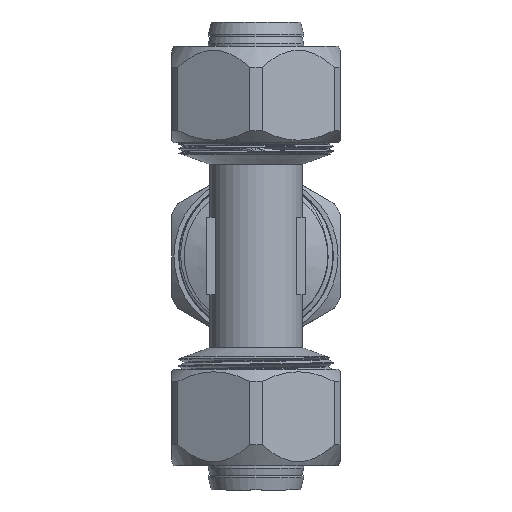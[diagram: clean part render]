
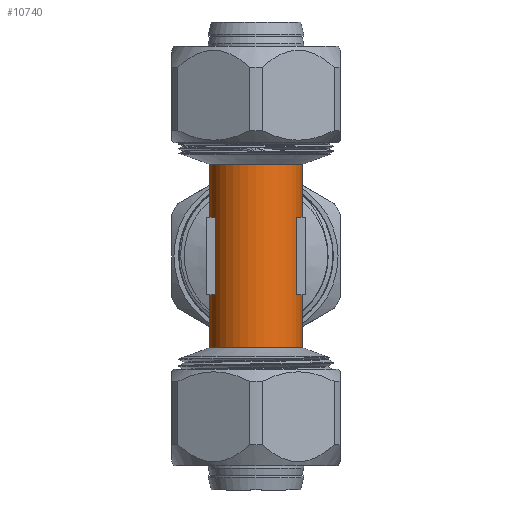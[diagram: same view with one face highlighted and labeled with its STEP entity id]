
A CAD part, front view. The second image highlights one B-rep face of the part: STEP entity #10740.
In plain terms, the highlighted cylindrical face has radius 9.65 mm (diameter 19.3 mm), a full revolution.
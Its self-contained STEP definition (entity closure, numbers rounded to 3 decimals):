
#111=ELLIPSE('',#11464,13.647,9.65);
#112=ELLIPSE('',#11465,13.647,9.65);
#113=ELLIPSE('',#11466,13.647,9.65);
#114=ELLIPSE('',#11467,13.647,9.65);
#1110=CYLINDRICAL_SURFACE('',#11490,9.65);
#1535=FACE_OUTER_BOUND('',#2155,.T.);
#2155=EDGE_LOOP('',(#7644,#7645,#7646,#7647,#7648,#7649,#7650,#7651,#7652,
#7653,#7654,#7655,#7656,#7657,#7658,#7659,#7660,#7661,#7662,#7663,#7664,
#7665,#7666,#7667));
#2858=LINE('',#14452,#3542);
#2861=LINE('',#14458,#3545);
#2868=LINE('',#14476,#3552);
#2871=LINE('',#14482,#3555);
#2880=LINE('',#14504,#3564);
#2886=LINE('',#14517,#3570);
#2892=LINE('',#14576,#3576);
#2893=LINE('',#14577,#3577);
#3542=VECTOR('',#12288,10.);
#3545=VECTOR('',#12293,10.);
#3552=VECTOR('',#12310,10.);
#3555=VECTOR('',#12315,10.);
#3564=VECTOR('',#12334,10.);
#3570=VECTOR('',#12348,10.);
#3576=VECTOR('',#12422,9.65);
#3577=VECTOR('',#12423,9.65);
#4124=CIRCLE('',#11386,9.65);
#4136=CIRCLE('',#11438,9.65);
#4137=CIRCLE('',#11440,9.65);
#4138=CIRCLE('',#11444,9.65);
#4139=CIRCLE('',#11446,9.65);
#4140=CIRCLE('',#11450,9.65);
#4141=CIRCLE('',#11452,9.65);
#4142=CIRCLE('',#11455,9.65);
#4143=CIRCLE('',#11459,9.65);
#4157=CIRCLE('',#11491,9.65);
#4414=VERTEX_POINT('',#14062);
#4504=VERTEX_POINT('',#14435);
#4505=VERTEX_POINT('',#14436);
#4507=VERTEX_POINT('',#14443);
#4508=VERTEX_POINT('',#14444);
#4510=VERTEX_POINT('',#14451);
#4512=VERTEX_POINT('',#14457);
#4514=VERTEX_POINT('',#14463);
#4516=VERTEX_POINT('',#14469);
#4518=VERTEX_POINT('',#14475);
#4520=VERTEX_POINT('',#14481);
#4522=VERTEX_POINT('',#14487);
#4523=VERTEX_POINT('',#14488);
#4525=VERTEX_POINT('',#14495);
#4526=VERTEX_POINT('',#14496);
#4528=VERTEX_POINT('',#14503);
#4531=VERTEX_POINT('',#14516);
#4534=VERTEX_POINT('',#14527);
#4535=VERTEX_POINT('',#14530);
#4550=VERTEX_POINT('',#14574);
#5564=EDGE_CURVE('',#4414,#4414,#4124,.T.);
#5695=EDGE_CURVE('',#4504,#4505,#4136,.T.);
#5699=EDGE_CURVE('',#4507,#4508,#4137,.T.);
#5703=EDGE_CURVE('',#4510,#4507,#2858,.T.);
#5706=EDGE_CURVE('',#4505,#4512,#2861,.T.);
#5709=EDGE_CURVE('',#4514,#4510,#4138,.T.);
#5712=EDGE_CURVE('',#4512,#4516,#4139,.T.);
#5715=EDGE_CURVE('',#4518,#4514,#2868,.T.);
#5718=EDGE_CURVE('',#4516,#4520,#2871,.T.);
#5721=EDGE_CURVE('',#4522,#4523,#4140,.T.);
#5725=EDGE_CURVE('',#4525,#4526,#4141,.T.);
#5729=EDGE_CURVE('',#4526,#4528,#2880,.T.);
#5732=EDGE_CURVE('',#4528,#4518,#4142,.T.);
#5736=EDGE_CURVE('',#4531,#4522,#2886,.T.);
#5738=EDGE_CURVE('',#4520,#4531,#4143,.T.);
#5742=EDGE_CURVE('',#4508,#4534,#111,.T.);
#5743=EDGE_CURVE('',#4535,#4525,#112,.T.);
#5744=EDGE_CURVE('',#4523,#4535,#113,.T.);
#5745=EDGE_CURVE('',#4534,#4504,#114,.T.);
#5764=EDGE_CURVE('',#4550,#4550,#4157,.T.);
#5765=EDGE_CURVE('',#4550,#4534,#2892,.T.);
#5766=EDGE_CURVE('',#4535,#4414,#2893,.T.);
#7644=ORIENTED_EDGE('',*,*,#5764,.F.);
#7645=ORIENTED_EDGE('',*,*,#5765,.T.);
#7646=ORIENTED_EDGE('',*,*,#5745,.T.);
#7647=ORIENTED_EDGE('',*,*,#5695,.T.);
#7648=ORIENTED_EDGE('',*,*,#5706,.T.);
#7649=ORIENTED_EDGE('',*,*,#5712,.T.);
#7650=ORIENTED_EDGE('',*,*,#5718,.T.);
#7651=ORIENTED_EDGE('',*,*,#5738,.T.);
#7652=ORIENTED_EDGE('',*,*,#5736,.T.);
#7653=ORIENTED_EDGE('',*,*,#5721,.T.);
#7654=ORIENTED_EDGE('',*,*,#5744,.T.);
#7655=ORIENTED_EDGE('',*,*,#5766,.T.);
#7656=ORIENTED_EDGE('',*,*,#5564,.T.);
#7657=ORIENTED_EDGE('',*,*,#5766,.F.);
#7658=ORIENTED_EDGE('',*,*,#5743,.T.);
#7659=ORIENTED_EDGE('',*,*,#5725,.T.);
#7660=ORIENTED_EDGE('',*,*,#5729,.T.);
#7661=ORIENTED_EDGE('',*,*,#5732,.T.);
#7662=ORIENTED_EDGE('',*,*,#5715,.T.);
#7663=ORIENTED_EDGE('',*,*,#5709,.T.);
#7664=ORIENTED_EDGE('',*,*,#5703,.T.);
#7665=ORIENTED_EDGE('',*,*,#5699,.T.);
#7666=ORIENTED_EDGE('',*,*,#5742,.T.);
#7667=ORIENTED_EDGE('',*,*,#5765,.F.);
#10740=ADVANCED_FACE('',(#1535),#1110,.T.);
#11386=AXIS2_PLACEMENT_3D('',#14063,#12067,#12068);
#11438=AXIS2_PLACEMENT_3D('',#14437,#12274,#12275);
#11440=AXIS2_PLACEMENT_3D('',#14445,#12281,#12282);
#11444=AXIS2_PLACEMENT_3D('',#14464,#12298,#12299);
#11446=AXIS2_PLACEMENT_3D('',#14470,#12304,#12305);
#11450=AXIS2_PLACEMENT_3D('',#14489,#12320,#12321);
#11452=AXIS2_PLACEMENT_3D('',#14497,#12327,#12328);
#11455=AXIS2_PLACEMENT_3D('',#14509,#12339,#12340);
#11459=AXIS2_PLACEMENT_3D('',#14520,#12352,#12353);
#11464=AXIS2_PLACEMENT_3D('',#14529,#12363,#12364);
#11465=AXIS2_PLACEMENT_3D('',#14531,#12365,#12366);
#11466=AXIS2_PLACEMENT_3D('',#14532,#12367,#12368);
#11467=AXIS2_PLACEMENT_3D('',#14533,#12369,#12370);
#11490=AXIS2_PLACEMENT_3D('',#14573,#12418,#12419);
#11491=AXIS2_PLACEMENT_3D('',#14575,#12420,#12421);
#12067=DIRECTION('center_axis',(0.,0.,1.));
#12068=DIRECTION('ref_axis',(0.,-1.,0.));
#12274=DIRECTION('center_axis',(0.,0.,1.));
#12275=DIRECTION('ref_axis',(0.,-1.,0.));
#12281=DIRECTION('center_axis',(0.,0.,1.));
#12282=DIRECTION('ref_axis',(0.,-1.,0.));
#12288=DIRECTION('',(0.,0.,-1.));
#12293=DIRECTION('',(0.,0.,1.));
#12298=DIRECTION('center_axis',(0.,0.,1.));
#12299=DIRECTION('ref_axis',(0.,-1.,0.));
#12304=DIRECTION('center_axis',(0.,0.,1.));
#12305=DIRECTION('ref_axis',(0.,-1.,0.));
#12310=DIRECTION('',(0.,0.,1.));
#12315=DIRECTION('',(0.,0.,-1.));
#12320=DIRECTION('center_axis',(0.,0.,-1.));
#12321=DIRECTION('ref_axis',(0.,-1.,0.));
#12327=DIRECTION('center_axis',(0.,0.,-1.));
#12328=DIRECTION('ref_axis',(0.,-1.,0.));
#12334=DIRECTION('',(0.,0.,-1.));
#12339=DIRECTION('center_axis',(0.,0.,-1.));
#12340=DIRECTION('ref_axis',(0.,-1.,0.));
#12348=DIRECTION('',(0.,0.,1.));
#12352=DIRECTION('center_axis',(0.,0.,-1.));
#12353=DIRECTION('ref_axis',(0.,-1.,0.));
#12363=DIRECTION('center_axis',(0.,-0.707,0.707));
#12364=DIRECTION('ref_axis',(0.,-0.707,-0.707));
#12365=DIRECTION('center_axis',(0.,-0.707,-0.707));
#12366=DIRECTION('ref_axis',(0.,0.707,-0.707));
#12367=DIRECTION('center_axis',(0.,-0.707,-0.707));
#12368=DIRECTION('ref_axis',(0.,0.707,-0.707));
#12369=DIRECTION('center_axis',(0.,-0.707,0.707));
#12370=DIRECTION('ref_axis',(0.,-0.707,-0.707));
#12418=DIRECTION('center_axis',(0.,0.,1.));
#12419=DIRECTION('ref_axis',(0.,-1.,0.));
#12420=DIRECTION('center_axis',(0.,0.,1.));
#12421=DIRECTION('ref_axis',(1.,0.,0.));
#12422=DIRECTION('',(0.,0.,-1.));
#12423=DIRECTION('',(0.,0.,-1.));
#14062=CARTESIAN_POINT('',(0.,9.65,-18.987));
#14063=CARTESIAN_POINT('Origin',(0.,0.,-18.987));
#14435=CARTESIAN_POINT('',(-8.4,4.75,4.75));
#14436=CARTESIAN_POINT('',(-8.408,4.736,4.75));
#14437=CARTESIAN_POINT('Origin',(0.,0.,4.75));
#14443=CARTESIAN_POINT('',(8.408,4.736,4.75));
#14444=CARTESIAN_POINT('',(8.4,4.75,4.75));
#14445=CARTESIAN_POINT('Origin',(0.,0.,4.75));
#14451=CARTESIAN_POINT('',(8.408,4.736,8.));
#14452=CARTESIAN_POINT('',(8.408,4.736,-9.5));
#14457=CARTESIAN_POINT('',(-8.408,4.736,8.));
#14458=CARTESIAN_POINT('',(-8.408,4.736,-9.5));
#14463=CARTESIAN_POINT('',(8.392,-4.764,8.));
#14464=CARTESIAN_POINT('Origin',(0.,0.,8.));
#14469=CARTESIAN_POINT('',(-8.392,-4.764,8.));
#14470=CARTESIAN_POINT('Origin',(0.,0.,8.));
#14475=CARTESIAN_POINT('',(8.392,-4.764,-8.));
#14476=CARTESIAN_POINT('',(8.392,-4.764,-9.5));
#14481=CARTESIAN_POINT('',(-8.392,-4.764,-8.));
#14482=CARTESIAN_POINT('',(-8.392,-4.764,-9.5));
#14487=CARTESIAN_POINT('',(-8.408,4.736,-4.75));
#14488=CARTESIAN_POINT('',(-8.4,4.75,-4.75));
#14489=CARTESIAN_POINT('Origin',(0.,0.,-4.75));
#14495=CARTESIAN_POINT('',(8.4,4.75,-4.75));
#14496=CARTESIAN_POINT('',(8.408,4.736,-4.75));
#14497=CARTESIAN_POINT('Origin',(0.,0.,-4.75));
#14503=CARTESIAN_POINT('',(8.408,4.736,-8.));
#14504=CARTESIAN_POINT('',(8.408,4.736,-9.5));
#14509=CARTESIAN_POINT('Origin',(0.,0.,-8.));
#14516=CARTESIAN_POINT('',(-8.408,4.736,-8.));
#14517=CARTESIAN_POINT('',(-8.408,4.736,-9.5));
#14520=CARTESIAN_POINT('Origin',(0.,0.,-8.));
#14527=CARTESIAN_POINT('',(0.,9.65,9.65));
#14529=CARTESIAN_POINT('Origin',(0.,0.,0.));
#14530=CARTESIAN_POINT('',(0.,9.65,-9.65));
#14531=CARTESIAN_POINT('Origin',(0.,0.,0.));
#14532=CARTESIAN_POINT('Origin',(0.,0.,0.));
#14533=CARTESIAN_POINT('Origin',(0.,0.,0.));
#14573=CARTESIAN_POINT('Origin',(0.,0.,-9.5));
#14574=CARTESIAN_POINT('',(0.,9.65,19.));
#14575=CARTESIAN_POINT('Origin',(0.,0.,19.));
#14576=CARTESIAN_POINT('',(0.,9.65,-9.5));
#14577=CARTESIAN_POINT('',(0.,9.65,-9.5));
